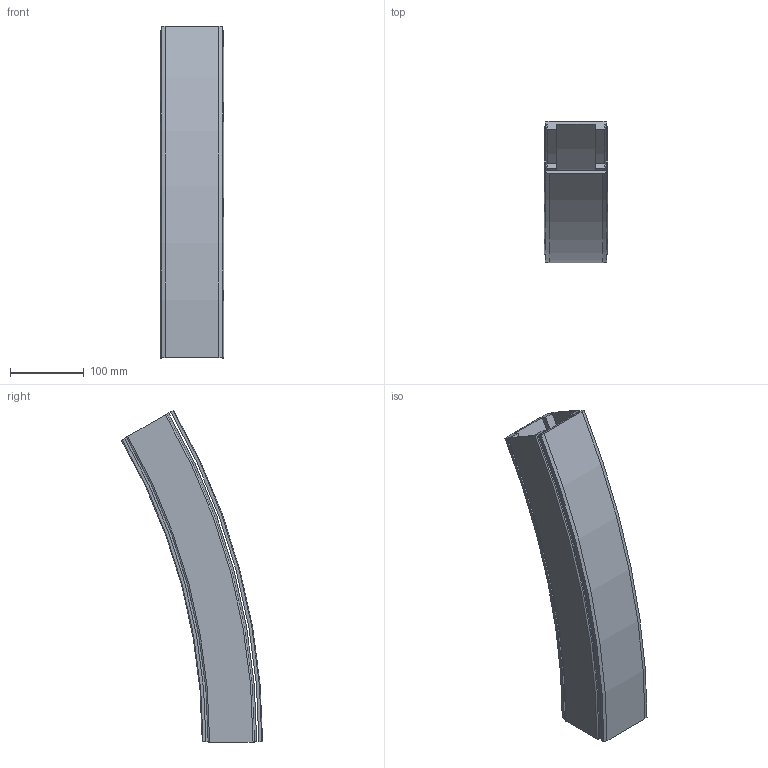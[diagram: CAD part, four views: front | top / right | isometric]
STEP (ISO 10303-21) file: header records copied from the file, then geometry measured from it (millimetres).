
FILE_DESCRIPTION((''),'2;1');
FILE_NAME('C:\Vault Klient\Projekt\Koncept konstruktion\Serie 530 Balk\530-5660_UP.stp','2010-11-23T13:58:27',('Mathias'),(''),'Autodesk Inventor 2011','Autodesk Inventor 2011','');
FILE_SCHEMA(('AUTOMOTIVE_DESIGN { 1 0 10303 214 1 1 1 1 }'));
Length unit declared in the file: millimetre
Products named in the file (1): 530-5660_UP
Bounding box: 86 x 191.93 x 451.25 mm (x, y, z)
Volume: 669133.4 mm3; surface area: 327899.7 mm2
Topology: 2 solids, 2 shells, 87 faces, 234 edges, 156 vertices
Faces by surface type: plane 40, cylinder 25, bspline 14, cone 4, torus 4
Entity records: 3194 total; most frequent: CARTESIAN_POINT 956, ORIENTED_EDGE 468, DIRECTION 428, EDGE_CURVE 234, VERTEX_POINT 156, AXIS2_PLACEMENT_3D 148, VECTOR 132, LINE 132
